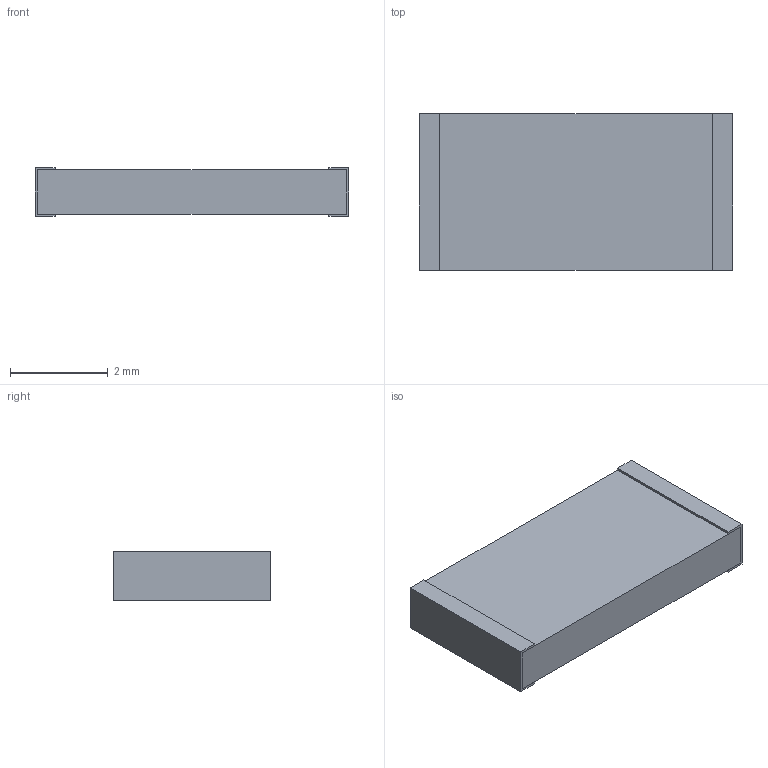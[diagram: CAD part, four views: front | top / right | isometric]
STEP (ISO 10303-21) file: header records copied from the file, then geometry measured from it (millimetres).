
FILE_DESCRIPTION(('STEP AP203'), '1');
FILE_NAME('Ð1-16-0,5', '', ('UNSPECIFIED'), ('UNSPECIFIED'), 'ASCON STEP Converter 1.6', 'ASCON Math Kernel', '');
FILE_SCHEMA(('CONFIG_CONTROL_DESIGN'));
Length unit declared in the file: millimetre
Bounding box: 6.4 x 3.2 x 1 mm (x, y, z)
Volume: 18.7 mm3; surface area: 80.2 mm2
Topology: 3 solids, 3 shells, 26 faces, 60 edges, 40 vertices
Faces by surface type: plane 26
Entity records: 988 total; most frequent: CARTESIAN_POINT 127, ORIENTED_EDGE 120, DIRECTION 114, EDGE_CURVE 60, LINE 60, VECTOR 60, VERTEX_POINT 40, COLOUR_RGB 29
